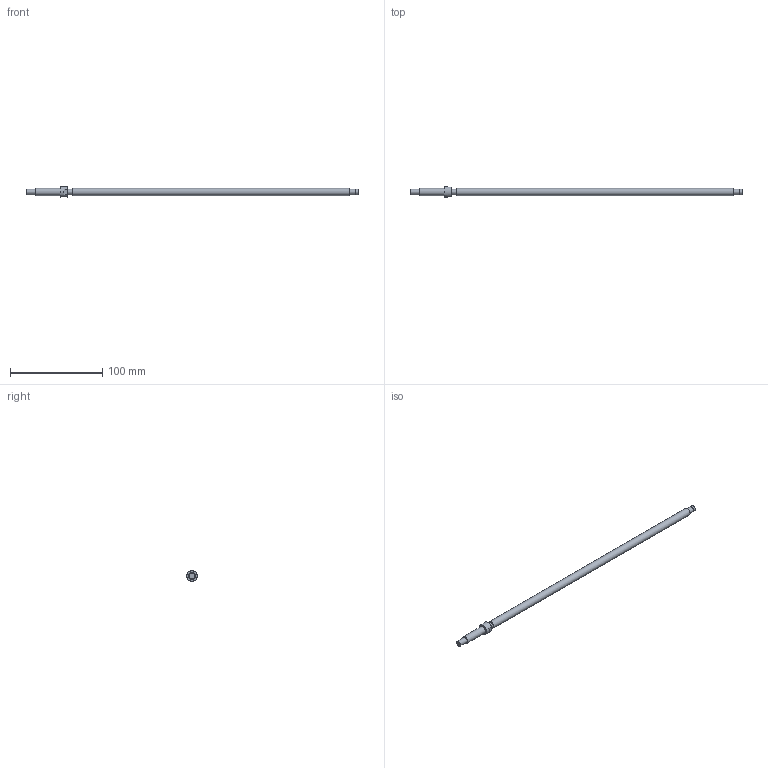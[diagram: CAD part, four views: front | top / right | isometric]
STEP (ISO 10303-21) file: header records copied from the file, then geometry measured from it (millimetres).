
FILE_DESCRIPTION((''),'2;1');
FILE_NAME('D:\製品 (図面)\カタログ用3D\ネジ関連\STEP形式\JK\JK8.stp','2010-06-11T10:44:09',('Tsuchiya'),(''),'Autodesk Inventor 10','Autodesk Inventor 10','');
FILE_SCHEMA(('AUTOMOTIVE_DESIGN { 1 0 10303 214 1 1 1 1 }'));
Length unit declared in the file: millimetre
Products named in the file (1): JK8
Bounding box: 359 x 11.5 x 11.5 mm (x, y, z)
Volume: 17921.1 mm3; surface area: 9214.2 mm2
Topology: 1 solids, 1 shells, 21 faces, 36 edges, 24 vertices
Faces by surface type: plane 13, cylinder 8
Full cylindrical faces by diameter (mm): 5.7 x1, 6 x4, 8 x2, 11.5 x1
Entity records: 483 total; most frequent: DIRECTION 90, CARTESIAN_POINT 72, ORIENTED_EDGE 54, AXIS2_PLACEMENT_3D 41, EDGE_LOOP 36, EDGE_CURVE 27, VERTEX_POINT 23, FACE_OUTER_BOUND 21
